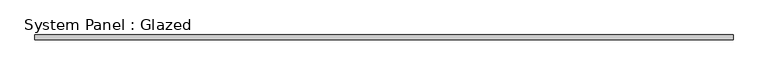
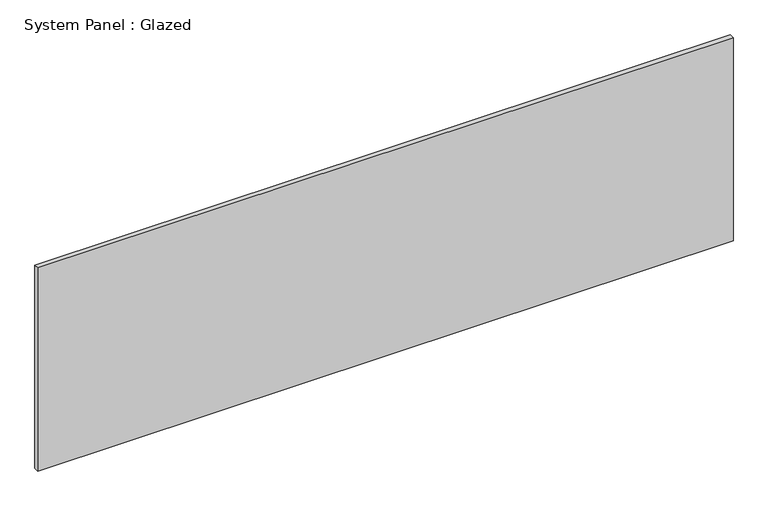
"""IFC4 building model written with IfcOpenShell, lengths in millimetres: plate geometry, System Panel : Glazed."""

from ifc_helpers import new_model, si_unit, origin, origin_with_axes, place, context, project, spatial, polyline, outline, extrude, source, transform, mapped, element, save


def system_panel_glazed_3a708ec0(model_context):
    return source(origin(), model_context, "Body", "SweptSolid", [
        extrude(outline(polyline([(1862.2565445, 24.5), (-1862.2565445, 24.5), (-1862.2565445, 49.5), (1862.2565445, 49.5), (1862.2565445, 24.5)])), origin_with_axes(), (0.0, 0.0, 1.0), 1150.0),
    ])


if __name__ == "__main__":
    model = new_model("IFC4")
    model_context = context("Model", 3, world=origin())
    ifc_project = project(units=[si_unit("LENGTHUNIT", "METRE", prefix="MILLI")], contexts=[model_context])
    site = spatial("IfcSite", under=ifc_project)
    building = spatial("IfcBuilding", under=site)
    placement = place(None, origin())
    system_panel_glazed_shape = system_panel_glazed_3a708ec0(model_context)
    element("IfcPlate", 1, ObjectType="System Panel : Glazed", at=placement, inside=building, context=model_context, shape_type="MappedRepresentation", body=[
        mapped(system_panel_glazed_shape, transform((0.0, 0.0, 0.0), x_axis=(1.0, 0.0, 0.0), y_axis=(0.0, 1.0, 0.0), z_axis=(0.0, 0.0, 1.0))),
    ])
    save(model, "model.ifc")
